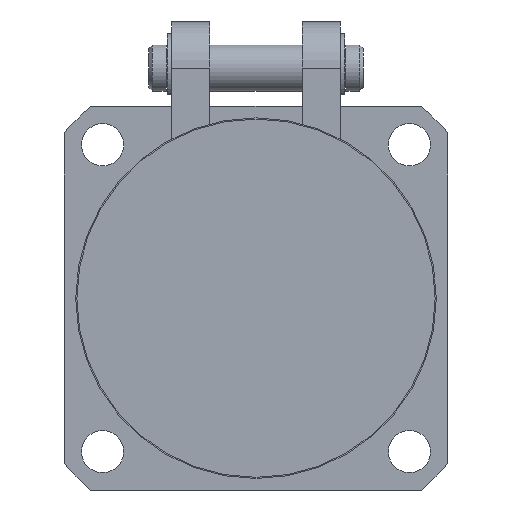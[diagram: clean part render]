
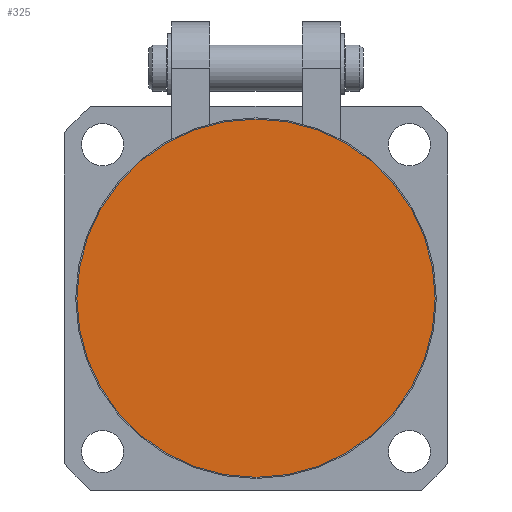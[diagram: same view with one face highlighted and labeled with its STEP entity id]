
A CAD part, front view. The second image highlights one B-rep face of the part: STEP entity #325.
In plain terms, the highlighted planar face has unit normal (0, -1, 0).
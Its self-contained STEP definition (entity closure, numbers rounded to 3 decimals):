
#325 = ADVANCED_FACE( '', ( #659 ), #660, .T. );
#659 = FACE_OUTER_BOUND( '', #1258, .T. );
#660 = PLANE( '', #1259 );
#1258 = EDGE_LOOP( '', ( #2121 ) );
#1259 = AXIS2_PLACEMENT_3D( '', #2122, #2123, #2124 );
#2121 = ORIENTED_EDGE( '', *, *, #3808, .T. );
#2122 = CARTESIAN_POINT( '', ( 0., -47.5, 0. ) );
#2123 = DIRECTION( '', ( 0., -1., 0. ) );
#2124 = DIRECTION( '', ( 1., 0., 0. ) );
#3808 = EDGE_CURVE( '', #4526, #4526, #4527, .T. );
#4526 = VERTEX_POINT( '', #5685 );
#4527 = CIRCLE( '', #5686, 23.35 );
#5685 = CARTESIAN_POINT( '', ( -23.35, -47.5, 0. ) );
#5686 = AXIS2_PLACEMENT_3D( '', #6924, #6925, #6926 );
#6924 = CARTESIAN_POINT( '', ( 0., -47.5, 0. ) );
#6925 = DIRECTION( '', ( 0., -1., 0. ) );
#6926 = DIRECTION( '', ( -1., 0., 0. ) );
